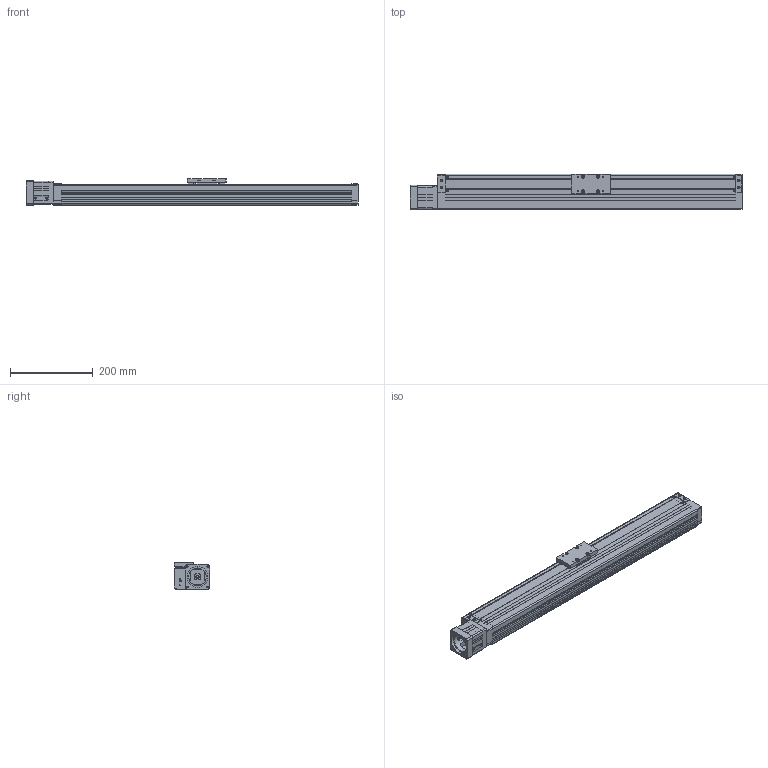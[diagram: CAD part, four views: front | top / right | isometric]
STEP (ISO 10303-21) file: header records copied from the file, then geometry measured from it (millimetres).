
FILE_DESCRIPTION((''),'2;1');
FILE_NAME('D:\製品 (図面)\カタログ用3D\SU部品\SU85×65\ダウンロード用\SU85×65-MB60\SU85×65-600-MB60.stp','2011-07-01T17:52:21',('Tsuchiya'),(''),'Autodesk Inventor 10','Autodesk Inventor 10','');
FILE_SCHEMA(('AUTOMOTIVE_DESIGN { 1 0 10303 214 1 1 1 1 }'));
Length unit declared in the file: millimetre
Products named in the file (3): SU85×65-600-MB60; SU85×65-600-MB601; SU85×65-600-MB602
Assembly tree (2 placements, depth 2):
  SU85×65-600-MB60
    SU85×65-600-MB601
    SU85×65-600-MB602
Bounding box: 801 x 86.45 x 65 mm (x, y, z)
Volume: 1439305.7 mm3; surface area: 500881.9 mm2
Topology: 8 solids, 8 shells, 841 faces, 2238 edges, 1450 vertices
Faces by surface type: plane 699, cylinder 108, cone 18, torus 12, bspline 4
Full cylindrical faces by diameter (mm): 3.242 x4, 4 x4, 4.134 x20, 4.5 x4, 5.5 x4, 6 x1, 7 x4, 8 x1, 11.5 x1, 12 x1, 13 x1, 43 x1, 50 x1
Entity records: 25870 total; most frequent: CARTESIAN_POINT 5199, ORIENTED_EDGE 4254, DIRECTION 4048, EDGE_CURVE 2127, VECTOR 1714, LINE 1714, VERTEX_POINT 1420, AXIS2_PLACEMENT_3D 1167
